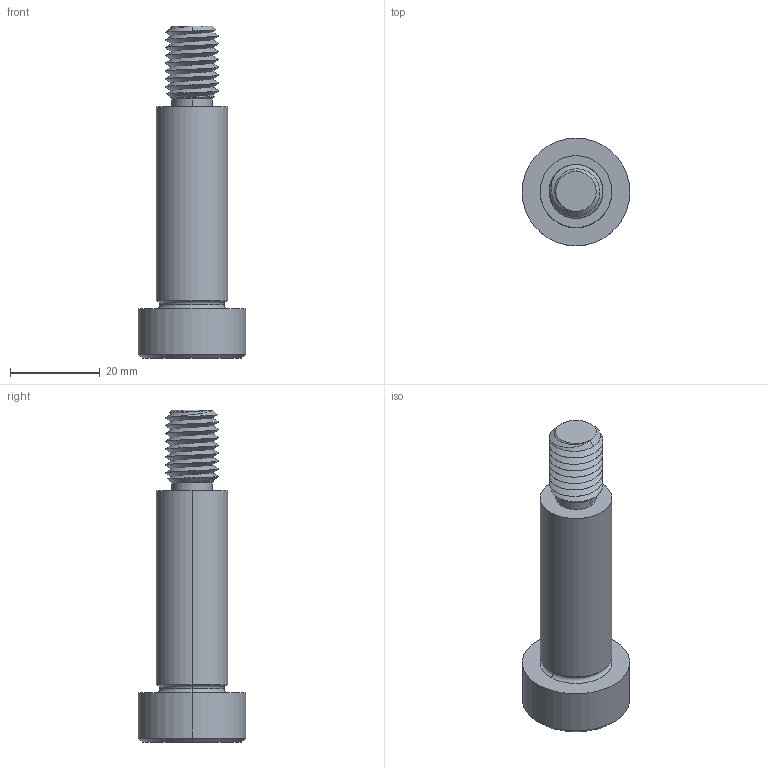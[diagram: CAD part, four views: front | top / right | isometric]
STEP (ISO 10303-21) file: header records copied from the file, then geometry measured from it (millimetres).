
FILE_DESCRIPTION (( 'STEP AP203' ), '1' );
FILE_NAME ('P0130.160-045-B2.step', '2021-11-09T22:15:03', ( '' ), ( '' ), 'SwSTEP 2.0', 'SolidWorks 2019', '' );
FILE_SCHEMA (( 'CONFIG_CONTROL_DESIGN' ));
Length unit declared in the file: millimetre
Products named in the file (1): P0130.160-045-B2
Bounding box: 24 x 24 x 74 mm (x, y, z)
Volume: 14952.4 mm3; surface area: 5305.1 mm2
Topology: 1 solids, 1 shells, 59 faces, 139 edges, 83 vertices
Faces by surface type: cylinder 22, plane 16, cone 15, torus 4, bspline 2
Entity records: 5164 total; most frequent: CARTESIAN_POINT 3839, ORIENTED_EDGE 274, DIRECTION 244, EDGE_CURVE 137, AXIS2_PLACEMENT_3D 98, VERTEX_POINT 83, EDGE_LOOP 62, FACE_OUTER_BOUND 59
